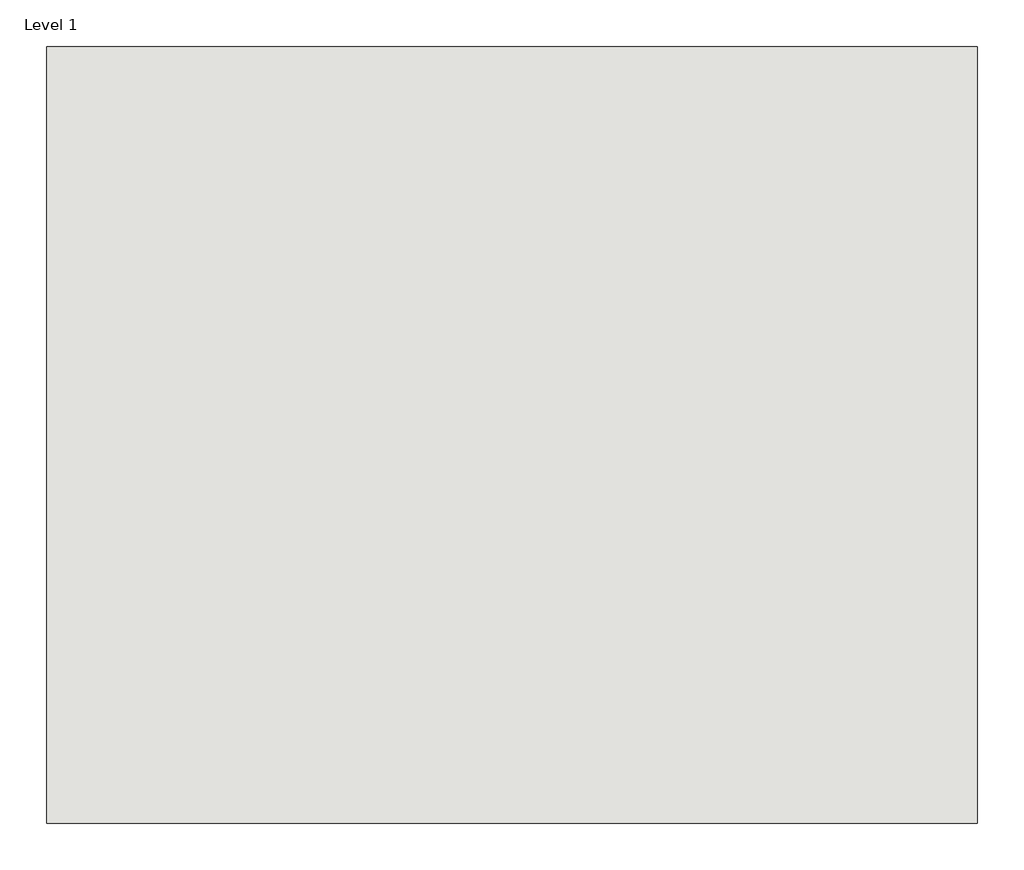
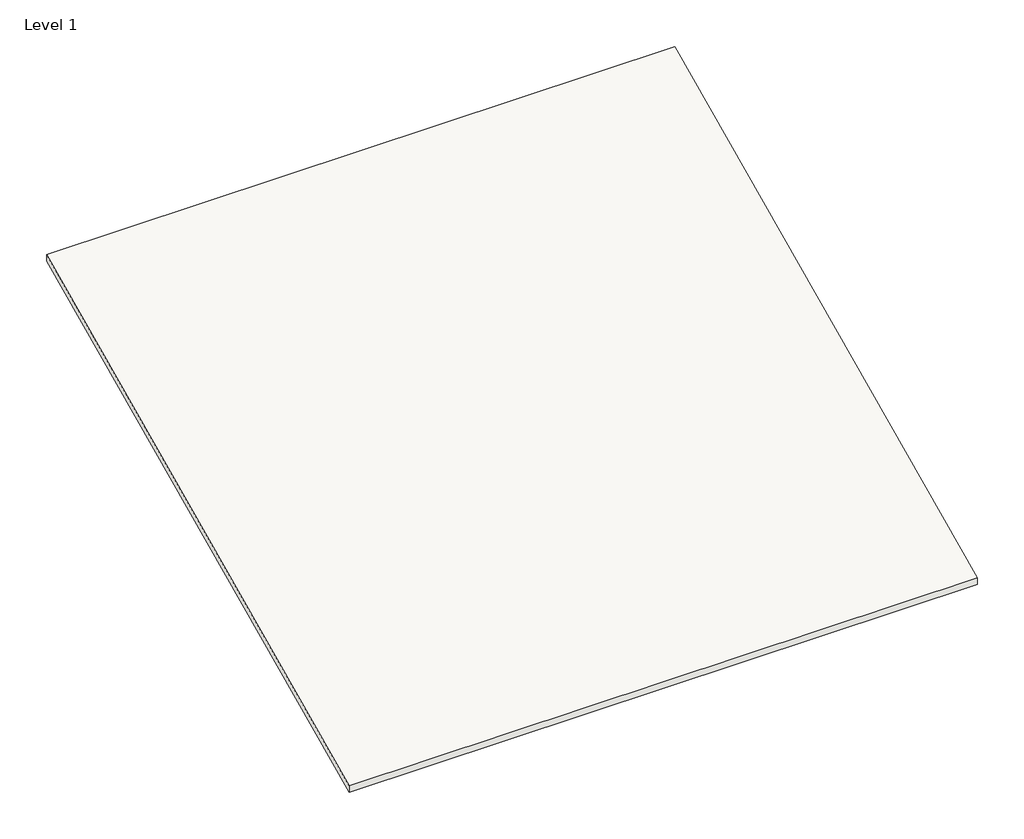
# One storey, incomplete: 1 roof.
"""IFC4 building model written with IfcOpenShell, lengths in millimetres."""

import ifcopenshell
import ifcopenshell.guid

model = None  # the IFC model being written
_history = None  # IfcOwnerHistory: only IFC2X3 demands one
_inside = {}  # id of a spatial element -> (the spatial element, [elements in it])
_under = {}  # id of a project, library or spatial element -> (it, [spatial elements below it])
_declared = {}  # id of a project -> (the project, [libraries it declares])
_typed = {}  # id of a type object -> (the type object, [elements of that type])
_made_of = {}  # id of a material, layer set ... -> (it, [elements and type objects made of it])


def new_model(schema):
    """Start an empty IFC model of exactly this schema.

    Asked for "IFC4X3", IfcOpenShell would pick the latest addendum, in which some entities
    have other attributes; the version numbers below select the first issue.
    IFC2X3 requires an IfcOwnerHistory on every rooted entity: one is made here for all.
    """
    global model, _history
    if schema == "IFC4X3":
        model = ifcopenshell.file(schema_version=(4, 3, 0, 0))
    else:
        model = ifcopenshell.file(schema=schema)
    _inside.clear()
    _under.clear()
    _declared.clear()
    _typed.clear()
    _made_of.clear()
    _history = None
    if model.schema == "IFC2X3":
        org = make("IfcOrganization", Name="unknown")
        user = make(
            "IfcPersonAndOrganization",
            ThePerson=make("IfcPerson", FamilyName="unknown"),
            TheOrganization=org,
        )
        app = make(
            "IfcApplication",
            ApplicationDeveloper=org,
            Version="unknown",
            ApplicationFullName="unknown",
            ApplicationIdentifier="unknown",
        )
        _history = make(
            "IfcOwnerHistory",
            OwningUser=user,
            OwningApplication=app,
            ChangeAction="ADDED",
            CreationDate=0,
        )
    return model


def make(cls, **values):
    """One entity of the class cls with the attributes given. An attribute that is None is left unset."""
    return model.create_entity(
        cls, **{name: value for name, value in values.items() if value is not None}
    )


def rooted(cls, **values):
    """An entity with a GlobalId (a new one), such as an element, a storey or a relation."""
    return make(cls, GlobalId=ifcopenshell.guid.new(), OwnerHistory=_history, **values)


def si_unit(unit_type, name, prefix=None):
    """IfcSIUnit, for example si_unit("LENGTHUNIT", "METRE", prefix="MILLI")."""
    return make("IfcSIUnit", UnitType=unit_type, Prefix=prefix, Name=name)


def assignment(units):
    """IfcUnitAssignment: the units of a project."""
    return None if units is None else make("IfcUnitAssignment", Units=units)


def point(xyz):
    """IfcCartesianPoint."""
    return None if xyz is None else make("IfcCartesianPoint", Coordinates=xyz)


def direction(xyz):
    """IfcDirection."""
    return None if xyz is None else make("IfcDirection", DirectionRatios=xyz)


def frame(location, z_axis=None, x_axis=None):
    """IfcAxis2Placement3D, a coordinate frame: its origin and axes. An axis left out is left unset."""
    return make(
        "IfcAxis2Placement3D",
        Location=point(location),
        Axis=direction(z_axis),
        RefDirection=direction(x_axis),
    )


def origin():
    """The frame at (0, 0, 0) with its axes left unset."""
    return frame((0.0, 0.0, 0.0))


def place(relative_to, where):
    """IfcLocalPlacement: puts the frame where relative to a parent placement (None: the world)."""
    return make(
        "IfcLocalPlacement", PlacementRelTo=relative_to, RelativePlacement=where
    )


def context(
    kind, dimensions, precision=None, world=None, true_north=None, identifier=None
):
    """IfcGeometricRepresentationContext, for example the 3D "Model" context."""
    return make(
        "IfcGeometricRepresentationContext",
        ContextIdentifier=identifier,
        ContextType=kind,
        CoordinateSpaceDimension=dimensions,
        Precision=precision,
        WorldCoordinateSystem=world,
        TrueNorth=true_north,
    )


def project(units=None, contexts=None):
    """IfcProject with its units and contexts."""
    return rooted(
        "IfcProject",
        Name="project",
        RepresentationContexts=contexts,
        UnitsInContext=assignment(units),
    )


def spatial(cls, under=None, at=None, **own):
    """A site, building, storey or space (cls), placed at a placement, below another one or the project."""
    s = rooted(cls, ObjectPlacement=at, **own)
    if under is not None:
        _under.setdefault(under.id(), (under, []))[1].append(s)
    return s


def polyline(points):
    """IfcPolyline through the points."""
    return make("IfcPolyline", Points=[point(p) for p in points])


def outline(outer, holes=None, kind="AREA"):
    """IfcArbitraryClosedProfileDef: a profile drawn as a closed curve; with holes, ...WithVoids."""
    if holes is None:
        return make("IfcArbitraryClosedProfileDef", ProfileType=kind, OuterCurve=outer)
    return make(
        "IfcArbitraryProfileDefWithVoids",
        ProfileType=kind,
        OuterCurve=outer,
        InnerCurves=holes,
    )


def extrude(swept, where, along, depth):
    """IfcExtrudedAreaSolid: the profile swept, set in the frame where, extruded along a direction by depth."""
    return make(
        "IfcExtrudedAreaSolid",
        SweptArea=swept,
        Position=where,
        ExtrudedDirection=direction(along),
        Depth=depth,
    )


def shape(context_of_items, identifier, shape_type, items):
    """IfcShapeRepresentation: the items that make up one representation, for example the "Body"."""
    return make(
        "IfcShapeRepresentation",
        ContextOfItems=context_of_items,
        RepresentationIdentifier=identifier,
        RepresentationType=shape_type,
        Items=items,
    )


def made_of(thing, what):
    """Note that an element or type object is made of a material, layer set ...; save() writes the relation."""
    if what is not None:
        _made_of.setdefault(what.id(), (what, []))[1].append(thing)
    return thing


def element(
    cls,
    number,
    at=None,
    inside=None,
    cuts=None,
    type_object=None,
    material=None,
    context=None,
    identifier="Body",
    shape_type=None,
    held_by="IfcProductDefinitionShape",
    body=None,
    shapes=None,
    **own,
):
    """One element of the class cls, such as IfcWall. Its Tag is "e" and its number.

    at: its placement. inside: the storey or other place that contains it. cuts: it is an
    opening in that element (IfcRelVoidsElement). A single representation is given by context,
    identifier, shape_type and body (its items); several are given by shapes. held_by: the class
    of the entity that holds the representations. save() writes the other relations.
    """
    e = rooted(cls, Tag="e%d" % number, ObjectPlacement=at, **own)
    if body is not None:
        shapes = [shape(context, identifier, shape_type, body)]
    if shapes is not None:
        e.Representation = make(held_by, Representations=shapes)
    if inside is not None:
        _inside.setdefault(inside.id(), (inside, []))[1].append(e)
    if cuts is not None:
        rooted(
            "IfcRelVoidsElement", RelatingBuildingElement=cuts, RelatedOpeningElement=e
        )
    if type_object is not None:
        _typed.setdefault(type_object.id(), (type_object, []))[1].append(e)
    return made_of(e, material)


def aggregate(whole, parts):
    """IfcRelAggregates: a whole, such as a stair, and the parts it consists of."""
    return rooted("IfcRelAggregates", RelatingObject=whole, RelatedObjects=parts)


def save(model, path):
    """Write the relations noted so far, then the file.

    IfcRelAggregates (storeys below a building ...), IfcRelContainedInSpatialStructure (elements
    in a storey), IfcRelDefinesByType, IfcRelAssociatesMaterial and IfcRelDeclares: one each for
    every whole, place, type object, material and project.
    """
    for whole, parts in _under.values():
        aggregate(whole, parts)
    for where, things in _inside.values():
        rooted(
            "IfcRelContainedInSpatialStructure",
            RelatedElements=things,
            RelatingStructure=where,
        )
    for kind, things in _typed.values():
        rooted("IfcRelDefinesByType", RelatedObjects=things, RelatingType=kind)
    for what, things in _made_of.values():
        rooted("IfcRelAssociatesMaterial", RelatedObjects=things, RelatingMaterial=what)
    for by, libraries in _declared.values():
        rooted("IfcRelDeclares", RelatingContext=by, RelatedDefinitions=libraries)
    model.write(path)


model = new_model("IFC4")

# Units and contexts
model_context = context("Model", 3, world=origin())
ifc_project = project(units=[si_unit("LENGTHUNIT", "METRE", prefix="MILLI")], contexts=[model_context])

# Site, building, storey
site = spatial("IfcSite", under=ifc_project)
building = spatial("IfcBuilding", under=site)
storey = spatial("IfcBuildingStorey", under=building, Name="Level 1", Elevation=0.0)

# Roof
placement = place(None, origin())
element("IfcRoof", 1, ObjectType="Teja Cerámica - Cerámica Mazarrón - Optima Plana", at=placement, inside=storey, context=model_context, shape_type="SweptSolid", body=[
    extrude(outline(polyline([(-9729.2930623, 33.1013376), (-7226.8955464, 1199.988463), (-7226.8955464, 1166.8871254), (-9729.2930623, 0.0), (-9729.2930623, 33.1013376)])), frame((-12080.5609346, 0.0, 0.0), z_axis=(1.0, 0.0, 0.0), x_axis=(0.0, 1.0, 0.0)), (0.0, 0.0, 1.0), 3000.0),
])

save(model, "model.ifc")
